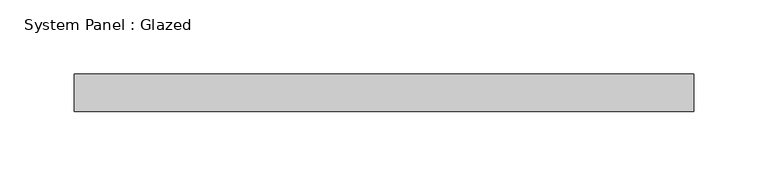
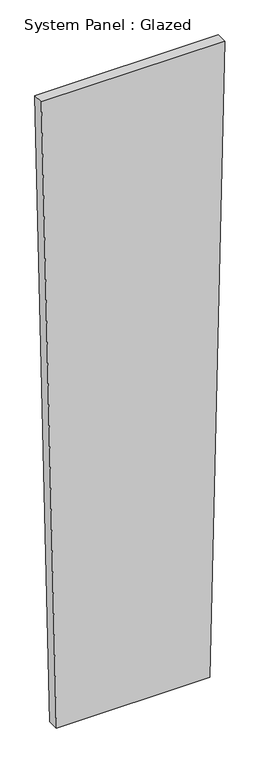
"""IFC4 building model written with IfcOpenShell, lengths in millimetres: plate geometry, System Panel : Glazed."""

from ifc_helpers import new_model, si_unit, frame, origin, place, context, project, spatial, polyline, outline, extrude, source, transform, mapped, element, save


def system_panel_glazed_5827fd40(model_context):
    return source(origin(), model_context, "Body", "SweptSolid", [
        extrude(outline(polyline([(0.0, -174.8840644), (0.0, 174.8840644), (1523.6121076, 209.2664077), (1523.6121076, -209.2664077), (0.0, -174.8840644)])), frame((0.0, -44.45, 0.0), z_axis=(0.0, 1.0, 0.0), x_axis=(0.0, 0.0, 1.0)), (0.0, 0.0, 1.0), 25.4),
    ])


if __name__ == "__main__":
    model = new_model("IFC4")
    model_context = context("Model", 3, world=origin())
    ifc_project = project(units=[si_unit("LENGTHUNIT", "METRE", prefix="MILLI")], contexts=[model_context])
    site = spatial("IfcSite", under=ifc_project)
    building = spatial("IfcBuilding", under=site)
    placement = place(None, origin())
    system_panel_glazed_shape = system_panel_glazed_5827fd40(model_context)
    element("IfcPlate", 1, ObjectType="System Panel : Glazed", at=placement, inside=building, context=model_context, shape_type="MappedRepresentation", body=[
        mapped(system_panel_glazed_shape, transform((0.0, 0.0, 0.0), x_axis=(1.0, 0.0, 0.0), y_axis=(0.0, 1.0, 0.0), z_axis=(0.0, 0.0, 1.0))),
    ])
    save(model, "model.ifc")
